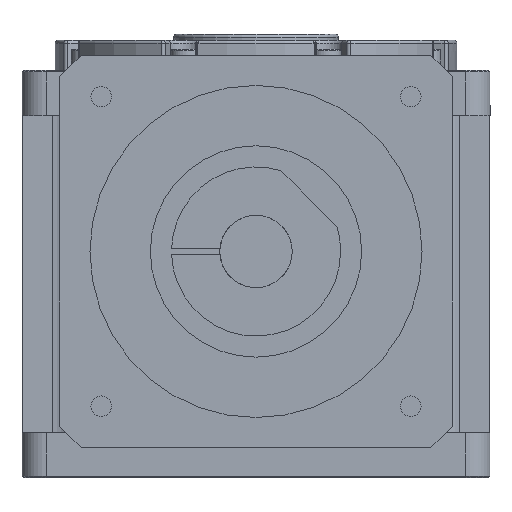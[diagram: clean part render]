
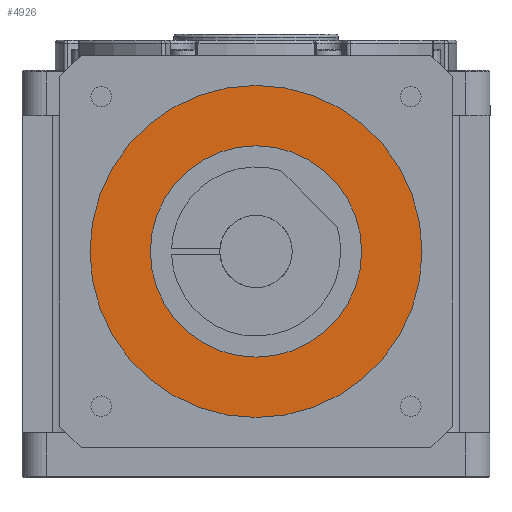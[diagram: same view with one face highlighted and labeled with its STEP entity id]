
A CAD part, front view. The second image highlights one B-rep face of the part: STEP entity #4926.
In plain terms, the highlighted planar face has unit normal (0, -1, 0) as drawn and (0, 0, -1) by its records, which use the part's own axes.
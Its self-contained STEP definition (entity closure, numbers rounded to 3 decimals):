
#465 = ORIENTED_EDGE ( 'NONE', *, *, #10505, .F. ) ;
#989 = AXIS2_PLACEMENT_3D ( 'NONE', #5178, #16036, #7978 ) ;
#1110 = FACE_OUTER_BOUND ( 'NONE', #16296, .T. ) ;
#2004 = VERTEX_POINT ( 'NONE', #13920 ) ;
#2513 = FACE_BOUND ( 'NONE', #11804, .T. ) ;
#3339 = DIRECTION ( 'NONE',  ( 0., 0., -1. ) ) ;
#4145 = DIRECTION ( 'NONE',  ( -1., 0., 0. ) ) ;
#4405 = CARTESIAN_POINT ( 'NONE',  ( 0., 0., -111. ) ) ;
#4826 = DIRECTION ( 'NONE',  ( -1., 0., 0. ) ) ;
#4926 = ADVANCED_FACE ( 'NONE', ( #2513, #1110 ), #8195, .T. ) ;
#5178 = CARTESIAN_POINT ( 'NONE',  ( 0., 0., -111. ) ) ;
#5708 = AXIS2_PLACEMENT_3D ( 'NONE', #14623, #3339, #4826 ) ;
#6454 = EDGE_CURVE ( 'NONE', #8766, #10760, #14139, .T. ) ;
#6608 = CIRCLE ( 'NONE', #5708, 35. ) ;
#6794 = CARTESIAN_POINT ( 'NONE',  ( 0., 0., -111. ) ) ;
#7325 = EDGE_CURVE ( 'NONE', #10760, #8766, #16243, .T. ) ;
#7600 = CARTESIAN_POINT ( 'NONE',  ( 35., 0., -111. ) ) ;
#7978 = DIRECTION ( 'NONE',  ( -1., 0., 0. ) ) ;
#8195 = PLANE ( 'NONE',  #17353 ) ;
#8196 = AXIS2_PLACEMENT_3D ( 'NONE', #4405, #15701, #10101 ) ;
#8766 = VERTEX_POINT ( 'NONE', #16531 ) ;
#10101 = DIRECTION ( 'NONE',  ( -1., 0., 0. ) ) ;
#10505 = EDGE_CURVE ( 'NONE', #2004, #14396, #6608, .T. ) ;
#10760 = VERTEX_POINT ( 'NONE', #11446 ) ;
#11078 = DIRECTION ( 'NONE',  ( 0., 0., -1. ) ) ;
#11446 = CARTESIAN_POINT ( 'NONE',  ( 55., 0., -111. ) ) ;
#11804 = EDGE_LOOP ( 'NONE', ( #465, #15265 ) ) ;
#12249 = ORIENTED_EDGE ( 'NONE', *, *, #6454, .T. ) ;
#12334 = AXIS2_PLACEMENT_3D ( 'NONE', #15441, #16665, #4145 ) ;
#13920 = CARTESIAN_POINT ( 'NONE',  ( -35., 0., -111. ) ) ;
#14139 = CIRCLE ( 'NONE', #12334, 55. ) ;
#14147 = ORIENTED_EDGE ( 'NONE', *, *, #7325, .T. ) ;
#14396 = VERTEX_POINT ( 'NONE', #7600 ) ;
#14623 = CARTESIAN_POINT ( 'NONE',  ( 0., 0., -111. ) ) ;
#15265 = ORIENTED_EDGE ( 'NONE', *, *, #16230, .F. ) ;
#15441 = CARTESIAN_POINT ( 'NONE',  ( 0., 0., -111. ) ) ;
#15701 = DIRECTION ( 'NONE',  ( 0., 0., -1. ) ) ;
#16036 = DIRECTION ( 'NONE',  ( 0., 0., -1. ) ) ;
#16230 = EDGE_CURVE ( 'NONE', #14396, #2004, #17377, .T. ) ;
#16243 = CIRCLE ( 'NONE', #8196, 55. ) ;
#16296 = EDGE_LOOP ( 'NONE', ( #12249, #14147 ) ) ;
#16531 = CARTESIAN_POINT ( 'NONE',  ( -55., 0., -111. ) ) ;
#16665 = DIRECTION ( 'NONE',  ( 0., 0., -1. ) ) ;
#16772 = DIRECTION ( 'NONE',  ( -1., 0., 0. ) ) ;
#17353 = AXIS2_PLACEMENT_3D ( 'NONE', #6794, #11078, #16772 ) ;
#17377 = CIRCLE ( 'NONE', #989, 35. ) ;
